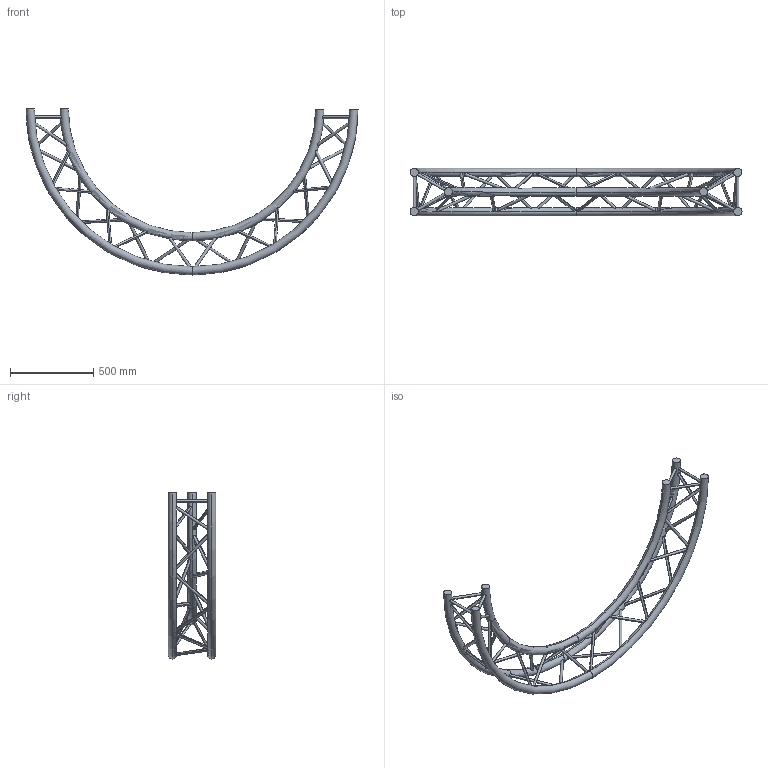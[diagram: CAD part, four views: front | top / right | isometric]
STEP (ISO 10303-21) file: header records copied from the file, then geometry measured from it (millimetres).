
FILE_DESCRIPTION (( 'STEP AP203' ), '1' );
FILE_NAME ('SXC29200PI.STEP', '2009-10-21T08:56:56', ( 'CEDIA' ), ( 'CEDIA INDUSTRIE' ), 'SwSTEP 2.0', 'SolidWorks 2009', '' );
FILE_SCHEMA (( 'CONFIG_CONTROL_DESIGN' ));
Length unit declared in the file: millimetre
Products named in the file (1): SXC29200PI
Bounding box: 2000 x 287 x 1000 mm (x, y, z)
Volume: 18824264 mm3; surface area: 1845802.8 mm2
Topology: 1 solids, 1 shells, 102 faces, 282 edges, 186 vertices
Faces by surface type: cylinder 84, torus 12, plane 6
Entity records: 10920 total; most frequent: CARTESIAN_POINT 8382, ORIENTED_EDGE 564, DIRECTION 350, EDGE_CURVE 282, EDGE_LOOP 186, VERTEX_POINT 186, B_SPLINE_CURVE_WITH_KNOTS 168, AXIS2_PLACEMENT_3D 133
